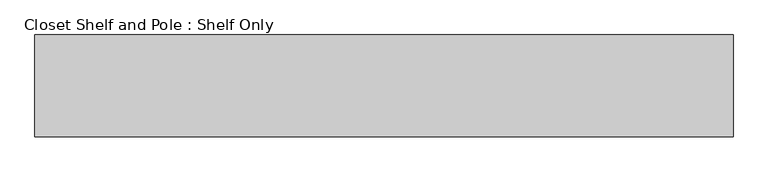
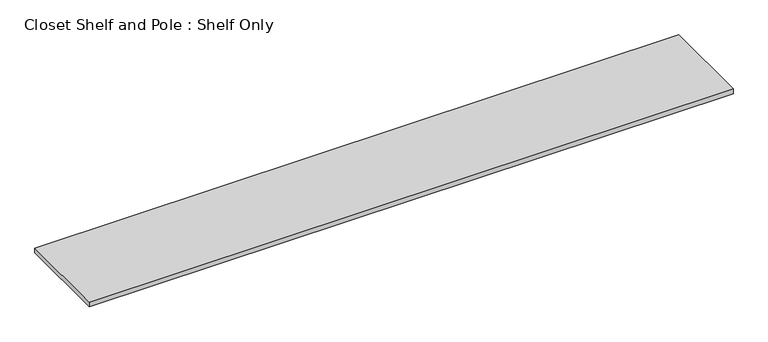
"""IFC4 building model written with IfcOpenShell, lengths in millimetres: furniture geometry, Closet Shelf and Pole : Shelf Only."""

from ifc_helpers import new_model, si_unit, frame, origin, place, context, project, spatial, polyline, outline, extrude, source, transform, mapped, element, save


def closet_shelf_and_pole_shelf_only_ceb32252(model_context):
    return source(origin(), model_context, "Body", "SweptSolid", [
        extrude(outline(polyline([(0.0, -355.6), (0.0, 0.0), (2438.4, 0.0), (2438.4, -355.6), (0.0, -355.6)])), frame((0.0, 0.0, 1454.15), z_axis=(0.0, 0.0, 1.0), x_axis=(1.0, 0.0, 0.0)), (0.0, 0.0, 1.0), 19.05),
    ])


if __name__ == "__main__":
    model = new_model("IFC4")
    model_context = context("Model", 3, world=origin())
    ifc_project = project(units=[si_unit("LENGTHUNIT", "METRE", prefix="MILLI")], contexts=[model_context])
    site = spatial("IfcSite", under=ifc_project)
    building = spatial("IfcBuilding", under=site)
    placement = place(None, origin())
    closet_shelf_and_pole_shelf_only_shape = closet_shelf_and_pole_shelf_only_ceb32252(model_context)
    element("IfcFurniture", 1, ObjectType="Closet Shelf and Pole : Shelf Only", at=placement, inside=building, context=model_context, shape_type="MappedRepresentation", body=[
        mapped(closet_shelf_and_pole_shelf_only_shape, transform((0.0, 0.0, 0.0), x_axis=(1.0, 0.0, 0.0), y_axis=(0.0, 1.0, 0.0), z_axis=(0.0, 0.0, 1.0))),
    ])
    save(model, "model.ifc")
